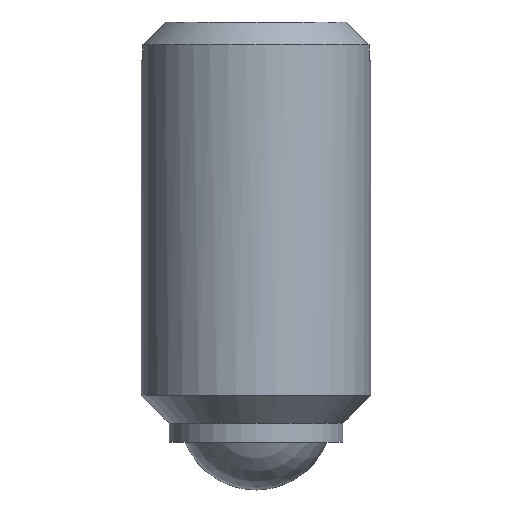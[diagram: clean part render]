
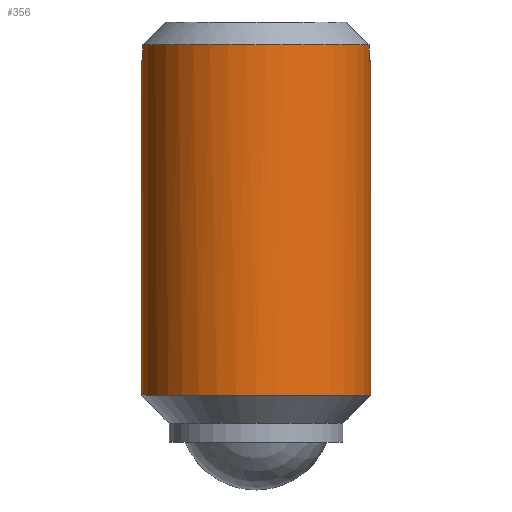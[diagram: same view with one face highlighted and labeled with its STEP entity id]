
A CAD part, front view. The second image highlights one B-rep face of the part: STEP entity #356.
In plain terms, the highlighted cylindrical face has radius 6 mm (diameter 12 mm), a partial arc.
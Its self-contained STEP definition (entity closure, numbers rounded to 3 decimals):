
#4 = DIRECTION ( 'NONE',  ( 1., 0., 0. ) ) ;
#10 = VECTOR ( 'NONE', #523, 1000. ) ;
#16 = CIRCLE ( 'NONE', #207, 6. ) ;
#18 = DIRECTION ( 'NONE',  ( 0., 0., 1. ) ) ;
#22 = DIRECTION ( 'NONE',  ( 0., 0., 1. ) ) ;
#28 = CIRCLE ( 'NONE', #512, 6. ) ;
#39 = CYLINDRICAL_SURFACE ( 'NONE', #443, 6. ) ;
#44 = EDGE_LOOP ( 'NONE', ( #115, #221, #391, #358, #204, #334, #409, #158 ) ) ;
#64 = EDGE_CURVE ( 'NONE', #279, #175, #16, .T. ) ;
#76 = EDGE_CURVE ( 'NONE', #490, #451, #496, .T. ) ;
#78 = DIRECTION ( 'NONE',  ( 0., 0., 1. ) ) ;
#84 = CARTESIAN_POINT ( 'NONE',  ( -6., 0., 4.95 ) ) ;
#114 = CARTESIAN_POINT ( 'NONE',  ( 0., 0., -5.5 ) ) ;
#115 = ORIENTED_EDGE ( 'NONE', *, *, #76, .F. ) ;
#116 = AXIS2_PLACEMENT_3D ( 'NONE', #506, #142, #497 ) ;
#122 = DIRECTION ( 'NONE',  ( 1., 0., 0. ) ) ;
#142 = DIRECTION ( 'NONE',  ( 0., 0., 1. ) ) ;
#153 = CARTESIAN_POINT ( 'NONE',  ( 6., 0., 22.5 ) ) ;
#158 = ORIENTED_EDGE ( 'NONE', *, *, #216, .T. ) ;
#171 = DIRECTION ( 'NONE',  ( 0., 0., -1. ) ) ;
#173 = LINE ( 'NONE', #470, #10 ) ;
#175 = VERTEX_POINT ( 'NONE', #400 ) ;
#202 = VERTEX_POINT ( 'NONE', #314 ) ;
#204 = ORIENTED_EDGE ( 'NONE', *, *, #484, .F. ) ;
#207 = AXIS2_PLACEMENT_3D ( 'NONE', #404, #382, #4 ) ;
#216 = EDGE_CURVE ( 'NONE', #287, #451, #395, .T. ) ;
#221 = ORIENTED_EDGE ( 'NONE', *, *, #332, .F. ) ;
#222 = CARTESIAN_POINT ( 'NONE',  ( -5.916, -1., 22.5 ) ) ;
#235 = EDGE_CURVE ( 'NONE', #434, #287, #173, .T. ) ;
#244 = VECTOR ( 'NONE', #18, 1000. ) ;
#266 = DIRECTION ( 'NONE',  ( -1., 0., 0. ) ) ;
#268 = CIRCLE ( 'NONE', #339, 6. ) ;
#279 = VERTEX_POINT ( 'NONE', #285 ) ;
#280 = CARTESIAN_POINT ( 'NONE',  ( 0., 0., 22.5 ) ) ;
#285 = CARTESIAN_POINT ( 'NONE',  ( 5.916, -1., 23.3 ) ) ;
#287 = VERTEX_POINT ( 'NONE', #84 ) ;
#310 = LINE ( 'NONE', #347, #244 ) ;
#314 = CARTESIAN_POINT ( 'NONE',  ( 5.916, -1., 22.5 ) ) ;
#321 = VECTOR ( 'NONE', #171, 1000. ) ;
#326 = CARTESIAN_POINT ( 'NONE',  ( 6., 0., 4.95 ) ) ;
#332 = EDGE_CURVE ( 'NONE', #202, #490, #268, .T. ) ;
#334 = ORIENTED_EDGE ( 'NONE', *, *, #527, .F. ) ;
#339 = AXIS2_PLACEMENT_3D ( 'NONE', #367, #446, #449 ) ;
#347 = CARTESIAN_POINT ( 'NONE',  ( 5.916, -1., 22.5 ) ) ;
#356 = ADVANCED_FACE ( 'NONE', ( #410 ), #39, .T. ) ;
#357 = VECTOR ( 'NONE', #22, 1000. ) ;
#358 = ORIENTED_EDGE ( 'NONE', *, *, #64, .T. ) ;
#367 = CARTESIAN_POINT ( 'NONE',  ( 0., 0., 22.5 ) ) ;
#373 = VERTEX_POINT ( 'NONE', #222 ) ;
#376 = EDGE_CURVE ( 'NONE', #202, #279, #310, .T. ) ;
#382 = DIRECTION ( 'NONE',  ( 0., 0., -1. ) ) ;
#391 = ORIENTED_EDGE ( 'NONE', *, *, #376, .T. ) ;
#395 = CIRCLE ( 'NONE', #116, 6. ) ;
#396 = LINE ( 'NONE', #398, #357 ) ;
#398 = CARTESIAN_POINT ( 'NONE',  ( -5.916, -1., 22.5 ) ) ;
#400 = CARTESIAN_POINT ( 'NONE',  ( -5.916, -1., 23.3 ) ) ;
#404 = CARTESIAN_POINT ( 'NONE',  ( 0., 0., 23.3 ) ) ;
#409 = ORIENTED_EDGE ( 'NONE', *, *, #235, .T. ) ;
#410 = FACE_OUTER_BOUND ( 'NONE', #44, .T. ) ;
#434 = VERTEX_POINT ( 'NONE', #511 ) ;
#443 = AXIS2_PLACEMENT_3D ( 'NONE', #114, #468, #266 ) ;
#446 = DIRECTION ( 'NONE',  ( 0., 0., 1. ) ) ;
#449 = DIRECTION ( 'NONE',  ( 1., 0., 0. ) ) ;
#451 = VERTEX_POINT ( 'NONE', #326 ) ;
#464 = CARTESIAN_POINT ( 'NONE',  ( 6., 0., -5.5 ) ) ;
#468 = DIRECTION ( 'NONE',  ( 0., 0., -1. ) ) ;
#470 = CARTESIAN_POINT ( 'NONE',  ( -6., 0., -5.5 ) ) ;
#484 = EDGE_CURVE ( 'NONE', #373, #175, #396, .T. ) ;
#490 = VERTEX_POINT ( 'NONE', #153 ) ;
#496 = LINE ( 'NONE', #464, #321 ) ;
#497 = DIRECTION ( 'NONE',  ( 1., 0., 0. ) ) ;
#506 = CARTESIAN_POINT ( 'NONE',  ( 0., 0., 4.95 ) ) ;
#511 = CARTESIAN_POINT ( 'NONE',  ( -6., 0., 22.5 ) ) ;
#512 = AXIS2_PLACEMENT_3D ( 'NONE', #280, #78, #122 ) ;
#523 = DIRECTION ( 'NONE',  ( 0., 0., -1. ) ) ;
#527 = EDGE_CURVE ( 'NONE', #434, #373, #28, .T. ) ;
